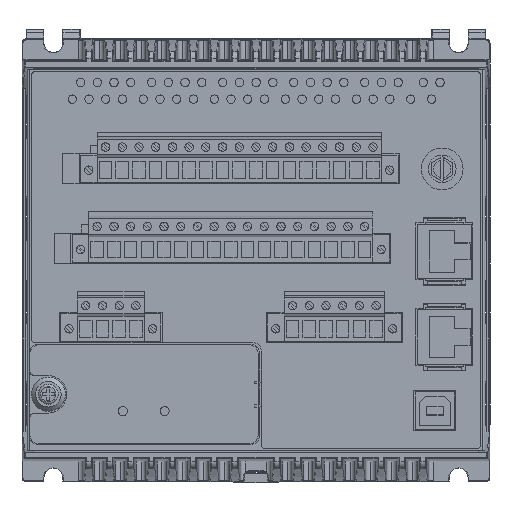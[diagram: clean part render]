
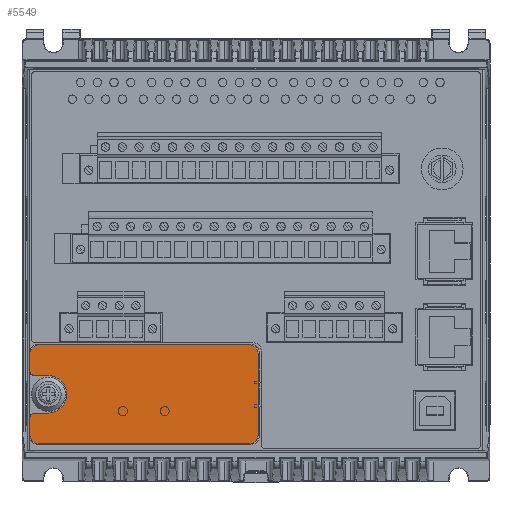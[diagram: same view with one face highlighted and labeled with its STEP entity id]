
A CAD part, top view. The second image highlights one B-rep face of the part: STEP entity #5549.
In plain terms, the highlighted planar face has unit normal (0, 0, 1).
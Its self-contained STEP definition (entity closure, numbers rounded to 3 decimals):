
#5549 = ADVANCED_FACE( '', ( #12843 ), #12844, .F. );
#12843 = FACE_OUTER_BOUND( '', #26812, .T. );
#12844 = PLANE( '', #26813 );
#26812 = EDGE_LOOP( '', ( #49306, #49307, #49308, #49309, #49310, #49311, #49312, #49313, #49314, #49315, #49316, #49317, #49318, #49319 ) );
#26813 = AXIS2_PLACEMENT_3D( '', #49320, #49321, #49322 );
#49306 = ORIENTED_EDGE( '', *, *, #69119, .F. );
#49307 = ORIENTED_EDGE( '', *, *, #63869, .T. );
#49308 = ORIENTED_EDGE( '', *, *, #69120, .F. );
#49309 = ORIENTED_EDGE( '', *, *, #67559, .T. );
#49310 = ORIENTED_EDGE( '', *, *, #69114, .F. );
#49311 = ORIENTED_EDGE( '', *, *, #69121, .T. );
#49312 = ORIENTED_EDGE( '', *, *, #69122, .F. );
#49313 = ORIENTED_EDGE( '', *, *, #69123, .T. );
#49314 = ORIENTED_EDGE( '', *, *, #68428, .F. );
#49315 = ORIENTED_EDGE( '', *, *, #69124, .T. );
#49316 = ORIENTED_EDGE( '', *, *, #64486, .F. );
#49317 = ORIENTED_EDGE( '', *, *, #66507, .T. );
#49318 = ORIENTED_EDGE( '', *, *, #69125, .T. );
#49319 = ORIENTED_EDGE( '', *, *, #69126, .T. );
#49320 = CARTESIAN_POINT( '', ( 70.674, 40.448, 53.365 ) );
#49321 = DIRECTION( '', ( 0., 0., -1. ) );
#49322 = DIRECTION( '', ( -1., 0., 0. ) );
#63869 = EDGE_CURVE( '', #74855, #74859, #74861, .T. );
#64486 = EDGE_CURVE( '', #75915, #75916, #75917, .T. );
#66507 = EDGE_CURVE( '', #75915, #79268, #79270, .T. );
#67559 = EDGE_CURVE( '', #80891, #80892, #80893, .T. );
#68428 = EDGE_CURVE( '', #82126, #82127, #82128, .T. );
#69114 = EDGE_CURVE( '', #83097, #80892, #83098, .T. );
#69119 = EDGE_CURVE( '', #74855, #83103, #83104, .T. );
#69120 = EDGE_CURVE( '', #80891, #74859, #83105, .T. );
#69121 = EDGE_CURVE( '', #83097, #83106, #83107, .T. );
#69122 = EDGE_CURVE( '', #83108, #83106, #83109, .T. );
#69123 = EDGE_CURVE( '', #83108, #82127, #83110, .T. );
#69124 = EDGE_CURVE( '', #82126, #75916, #83111, .T. );
#69125 = EDGE_CURVE( '', #79268, #83112, #83113, .T. );
#69126 = EDGE_CURVE( '', #83112, #83103, #83114, .T. );
#74855 = VERTEX_POINT( '', #91269 );
#74859 = VERTEX_POINT( '', #91275 );
#74861 = LINE( '', #91278, #91279 );
#75915 = VERTEX_POINT( '', #93261 );
#75916 = VERTEX_POINT( '', #93262 );
#75917 = CIRCLE( '', #93263, 1.27 );
#79268 = VERTEX_POINT( '', #99272 );
#79270 = LINE( '', #99275, #99276 );
#80891 = VERTEX_POINT( '', #102285 );
#80892 = VERTEX_POINT( '', #102286 );
#80893 = LINE( '', #102287, #102288 );
#82126 = VERTEX_POINT( '', #104550 );
#82127 = VERTEX_POINT( '', #104551 );
#82128 = CIRCLE( '', #104552, 2.54 );
#83097 = VERTEX_POINT( '', #106371 );
#83098 = CIRCLE( '', #106372, 2.54 );
#83103 = VERTEX_POINT( '', #106379 );
#83104 = CIRCLE( '', #106380, 1.27 );
#83105 = CIRCLE( '', #106381, 2.54 );
#83106 = VERTEX_POINT( '', #106382 );
#83107 = LINE( '', #106383, #106384 );
#83108 = VERTEX_POINT( '', #106385 );
#83109 = CIRCLE( '', #106386, 2.54 );
#83110 = LINE( '', #106387, #106388 );
#83111 = LINE( '', #106389, #106390 );
#83112 = VERTEX_POINT( '', #106391 );
#83113 = CIRCLE( '', #106392, 5.715 );
#83114 = LINE( '', #106393, #106394 );
#91269 = CARTESIAN_POINT( '', ( 2.094, 19.239, 53.365 ) );
#91275 = CARTESIAN_POINT( '', ( 2.094, 13.778, 53.365 ) );
#91278 = CARTESIAN_POINT( '', ( 2.094, 12.508, 53.365 ) );
#91279 = VECTOR( '', #114303, 1000. );
#93261 = CARTESIAN_POINT( '', ( 3.364, 31.939, 53.365 ) );
#93262 = CARTESIAN_POINT( '', ( 2.094, 33.209, 53.365 ) );
#93263 = AXIS2_PLACEMENT_3D( '', #114954, #114955, #114956 );
#99272 = CARTESIAN_POINT( '', ( 7.555, 31.939, 53.365 ) );
#99275 = CARTESIAN_POINT( '', ( 37.749, 31.939, 53.365 ) );
#99276 = VECTOR( '', #117324, 1000. );
#102285 = CARTESIAN_POINT( '', ( 4.634, 11.238, 53.365 ) );
#102286 = CARTESIAN_POINT( '', ( 68.896, 11.238, 53.365 ) );
#102287 = CARTESIAN_POINT( '', ( 38.289, 11.238, 53.365 ) );
#102288 = VECTOR( '', #118364, 1000. );
#104550 = CARTESIAN_POINT( '', ( 2.094, 38.67, 53.365 ) );
#104551 = CARTESIAN_POINT( '', ( 4.634, 41.21, 53.365 ) );
#104552 = AXIS2_PLACEMENT_3D( '', #119272, #119273, #119274 );
#106371 = CARTESIAN_POINT( '', ( 71.436, 13.778, 53.365 ) );
#106372 = AXIS2_PLACEMENT_3D( '', #119895, #119896, #119897 );
#106379 = CARTESIAN_POINT( '', ( 3.364, 20.509, 53.365 ) );
#106380 = AXIS2_PLACEMENT_3D( '', #119900, #119901, #119902 );
#106381 = AXIS2_PLACEMENT_3D( '', #119903, #119904, #119905 );
#106382 = CARTESIAN_POINT( '', ( 71.436, 38.67, 53.365 ) );
#106383 = CARTESIAN_POINT( '', ( 71.436, 39.94, 53.365 ) );
#106384 = VECTOR( '', #119906, 1000. );
#106385 = CARTESIAN_POINT( '', ( 68.896, 41.21, 53.365 ) );
#106386 = AXIS2_PLACEMENT_3D( '', #119907, #119908, #119909 );
#106387 = CARTESIAN_POINT( '', ( 35.749, 41.21, 53.365 ) );
#106388 = VECTOR( '', #119910, 1000. );
#106389 = CARTESIAN_POINT( '', ( 2.094, 12.508, 53.365 ) );
#106390 = VECTOR( '', #119911, 1000. );
#106391 = CARTESIAN_POINT( '', ( 7.555, 20.509, 53.365 ) );
#106392 = AXIS2_PLACEMENT_3D( '', #119912, #119913, #119914 );
#106393 = CARTESIAN_POINT( '', ( 37.749, 20.509, 53.365 ) );
#106394 = VECTOR( '', #119915, 1000. );
#114303 = DIRECTION( '', ( 0., -1., 0. ) );
#114954 = CARTESIAN_POINT( '', ( 3.364, 33.209, 53.365 ) );
#114955 = DIRECTION( '', ( 0., 0., -1. ) );
#114956 = DIRECTION( '', ( -0.707, -0.707, 0. ) );
#117324 = DIRECTION( '', ( 1., 0., 0. ) );
#118364 = DIRECTION( '', ( 1., 0., 0. ) );
#119272 = CARTESIAN_POINT( '', ( 4.634, 38.67, 53.365 ) );
#119273 = DIRECTION( '', ( 0., 0., -1. ) );
#119274 = DIRECTION( '', ( -0.707, 0.707, 0. ) );
#119895 = CARTESIAN_POINT( '', ( 68.896, 13.778, 53.365 ) );
#119896 = DIRECTION( '', ( 0., 0., -1. ) );
#119897 = DIRECTION( '', ( 0.707, -0.707, 0. ) );
#119900 = CARTESIAN_POINT( '', ( 3.364, 19.239, 53.365 ) );
#119901 = DIRECTION( '', ( 0., 0., -1. ) );
#119902 = DIRECTION( '', ( -0.707, 0.707, 0. ) );
#119903 = CARTESIAN_POINT( '', ( 4.634, 13.778, 53.365 ) );
#119904 = DIRECTION( '', ( 0., 0., -1. ) );
#119905 = DIRECTION( '', ( -0.707, -0.707, 0. ) );
#119906 = DIRECTION( '', ( 0., 1., 0. ) );
#119907 = CARTESIAN_POINT( '', ( 68.896, 38.67, 53.365 ) );
#119908 = DIRECTION( '', ( 0., 0., -1. ) );
#119909 = DIRECTION( '', ( 0.707, 0.707, 0. ) );
#119910 = DIRECTION( '', ( -1., 0., 0. ) );
#119911 = DIRECTION( '', ( 0., -1., 0. ) );
#119912 = CARTESIAN_POINT( '', ( 7.555, 26.224, 53.365 ) );
#119913 = DIRECTION( '', ( 0., 0., -1. ) );
#119914 = DIRECTION( '', ( 1., 0., 0. ) );
#119915 = DIRECTION( '', ( -1., 0., 0. ) );
